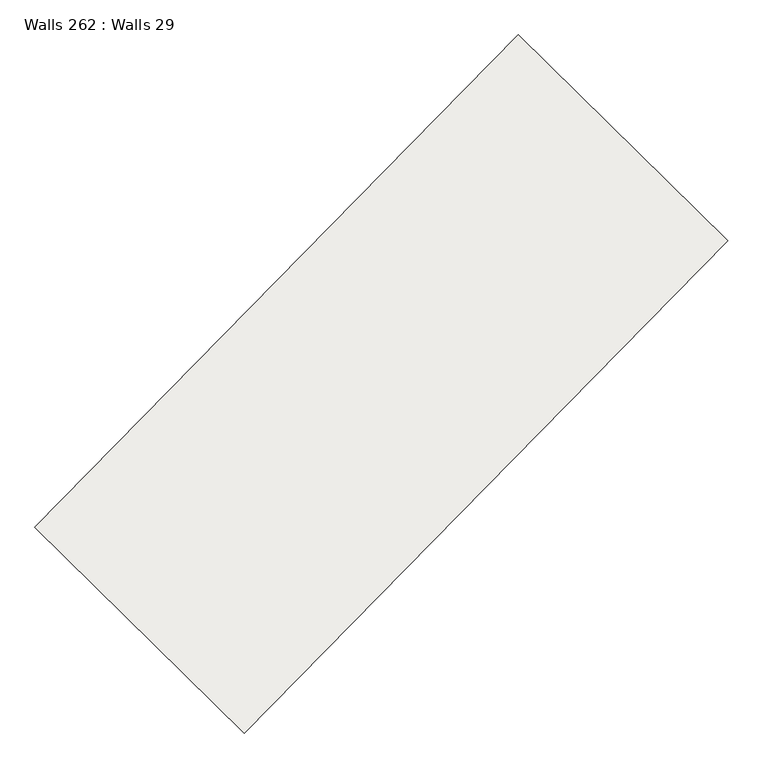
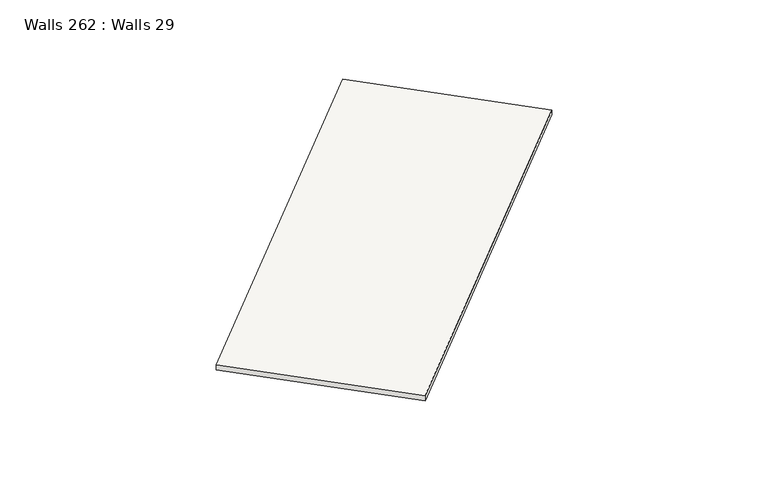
"""IFC4 building model written with IfcOpenShell, lengths in millimetres: slab geometry, Walls 262 : Walls 29."""

from ifc_helpers import new_model, si_unit, frame, origin, place, context, project, spatial, polyline, outline, extrude, source, transform, mapped, element, save


def walls_262_walls_29_0819493b(model_context):
    return source(origin(), model_context, "Body", "SweptSolid", [
        extrude(outline(polyline([(-50.0, 0.0), (50.0, 0.0), (-40.0, -8699.999999), (-140.0, -8699.999999), (-50.0, 0.0)])), frame((-207134.5460364, -370415.8497364, 635040.0), z_axis=(-0.7136987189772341, 0.7004528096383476, 0.0), x_axis=(0.0, 0.0, 1.0)), (0.0, 0.0, 1.0), 3700.0),
    ])


if __name__ == "__main__":
    model = new_model("IFC4")
    model_context = context("Model", 3, world=origin())
    ifc_project = project(units=[si_unit("LENGTHUNIT", "METRE", prefix="MILLI")], contexts=[model_context])
    site = spatial("IfcSite", under=ifc_project)
    building = spatial("IfcBuilding", under=site)
    placement = place(None, origin())
    walls_262_walls_29_shape = walls_262_walls_29_0819493b(model_context)
    element("IfcSlab", 1, ObjectType="Walls 262 : Walls 29", at=placement, inside=building, context=model_context, shape_type="MappedRepresentation", body=[
        mapped(walls_262_walls_29_shape, transform((0.0, 0.0, 0.0), x_axis=(1.0, 0.0, 0.0), y_axis=(0.0, 1.0, 0.0), z_axis=(0.0, 0.0, 1.0))),
    ])
    save(model, "model.ifc")
